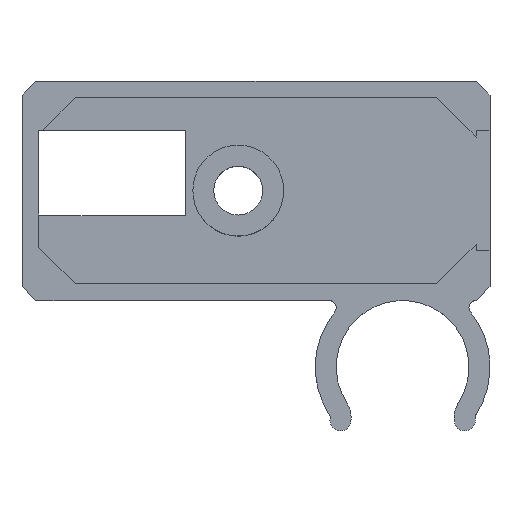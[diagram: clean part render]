
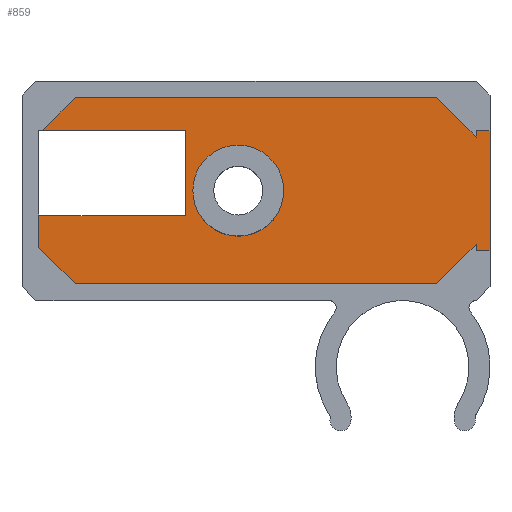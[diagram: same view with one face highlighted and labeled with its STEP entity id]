
A CAD part, top view. The second image highlights one B-rep face of the part: STEP entity #859.
In plain terms, the highlighted planar face has unit normal (0, 0, 1).
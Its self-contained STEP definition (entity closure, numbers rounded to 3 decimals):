
#611=CARTESIAN_POINT('',(-5.04,-17.5,1.0));
#612=VERTEX_POINT('',#611);
#619=CARTESIAN_POINT('',(-5.04,-11.36,1.0));
#620=VERTEX_POINT('',#619);
#621=CARTESIAN_POINT('',(-5.04,-17.5,1.0));
#622=DIRECTION('',(0.0,1.0,0.0));
#623=VECTOR('',#622,6.14);
#624=LINE('',#621,#623);
#625=EDGE_CURVE('',#612,#620,#624,.T.);
#650=CARTESIAN_POINT('',(-15.25,-11.36,1.0));
#651=VERTEX_POINT('',#650);
#652=CARTESIAN_POINT('',(-5.04,-11.36,1.0));
#653=DIRECTION('',(-1.0,0.0,0.0));
#654=VECTOR('',#653,10.21);
#655=LINE('',#652,#654);
#656=EDGE_CURVE('',#620,#651,#655,.T.);
#704=CARTESIAN_POINT('',(-15.54,-17.5,1.0));
#705=VERTEX_POINT('',#704);
#712=CARTESIAN_POINT('',(-15.54,-17.5,1.0));
#713=DIRECTION('',(1.0,0.0,0.0));
#714=VECTOR('',#713,10.5);
#715=LINE('',#712,#714);
#716=EDGE_CURVE('',#705,#612,#715,.T.);
#744=CARTESIAN_POINT('',(0.0,-15.7,1.0));
#745=DIRECTION('',(0.0,0.0,-1.0));
#746=DIRECTION('',(1.0,0.0,0.0));
#747=AXIS2_PLACEMENT_3D('',#744,#745,#746);
#748=PLANE('',#747);
#749=ORIENTED_EDGE('',*,*,#716,.F.);
#750=CARTESIAN_POINT('',(-15.54,-19.75,1.0));
#751=VERTEX_POINT('',#750);
#752=CARTESIAN_POINT('',(-15.54,-19.75,1.0));
#753=DIRECTION('',(0.0,1.0,0.0));
#754=VECTOR('',#753,2.25);
#755=LINE('',#752,#754);
#756=EDGE_CURVE('',#751,#705,#755,.T.);
#757=ORIENTED_EDGE('',*,*,#756,.F.);
#758=CARTESIAN_POINT('',(-12.94,-22.35,1.0));
#759=VERTEX_POINT('',#758);
#760=CARTESIAN_POINT('',(-12.94,-22.35,1.0));
#761=DIRECTION('',(-0.707,0.707,0.0));
#762=VECTOR('',#761,3.677);
#763=LINE('',#760,#762);
#764=EDGE_CURVE('',#759,#751,#763,.T.);
#765=ORIENTED_EDGE('',*,*,#764,.F.);
#766=CARTESIAN_POINT('',(12.94,-22.35,1.0));
#767=VERTEX_POINT('',#766);
#768=CARTESIAN_POINT('',(12.94,-22.35,1.0));
#769=DIRECTION('',(-1.0,0.0,0.0));
#770=VECTOR('',#769,25.88);
#771=LINE('',#768,#770);
#772=EDGE_CURVE('',#767,#759,#771,.T.);
#773=ORIENTED_EDGE('',*,*,#772,.F.);
#774=CARTESIAN_POINT('',(15.74,-19.55,1.0));
#775=VERTEX_POINT('',#774);
#776=CARTESIAN_POINT('',(15.74,-19.55,1.0));
#777=DIRECTION('',(-0.707,-0.707,0.0));
#778=VECTOR('',#777,3.96);
#779=LINE('',#776,#778);
#780=EDGE_CURVE('',#775,#767,#779,.T.);
#781=ORIENTED_EDGE('',*,*,#780,.F.);
#782=CARTESIAN_POINT('',(15.74,-20.,1.0));
#783=VERTEX_POINT('',#782);
#784=CARTESIAN_POINT('',(15.74,-20.0,1.0));
#785=DIRECTION('',(0.0,1.0,0.0));
#786=VECTOR('',#785,0.45);
#787=LINE('',#784,#786);
#788=EDGE_CURVE('',#783,#775,#787,.T.);
#789=ORIENTED_EDGE('',*,*,#788,.F.);
#790=CARTESIAN_POINT('',(16.74,-20.,1.0));
#791=VERTEX_POINT('',#790);
#792=CARTESIAN_POINT('',(16.74,-20.,1.0));
#793=DIRECTION('',(-1.0,0.0,0.0));
#794=VECTOR('',#793,1.0);
#795=LINE('',#792,#794);
#796=EDGE_CURVE('',#791,#783,#795,.T.);
#797=ORIENTED_EDGE('',*,*,#796,.F.);
#798=CARTESIAN_POINT('',(16.74,-11.4,1.0));
#799=VERTEX_POINT('',#798);
#800=CARTESIAN_POINT('',(16.74,-11.4,1.0));
#801=DIRECTION('',(0.0,-1.0,0.0));
#802=VECTOR('',#801,8.6);
#803=LINE('',#800,#802);
#804=EDGE_CURVE('',#799,#791,#803,.T.);
#805=ORIENTED_EDGE('',*,*,#804,.F.);
#806=CARTESIAN_POINT('',(15.74,-11.4,1.0));
#807=VERTEX_POINT('',#806);
#808=CARTESIAN_POINT('',(15.74,-11.4,1.0));
#809=DIRECTION('',(1.0,0.0,0.0));
#810=VECTOR('',#809,1.0);
#811=LINE('',#808,#810);
#812=EDGE_CURVE('',#807,#799,#811,.T.);
#813=ORIENTED_EDGE('',*,*,#812,.F.);
#814=CARTESIAN_POINT('',(15.74,-11.85,1.0));
#815=VERTEX_POINT('',#814);
#816=CARTESIAN_POINT('',(15.74,-11.85,1.0));
#817=DIRECTION('',(0.0,1.0,0.0));
#818=VECTOR('',#817,0.45);
#819=LINE('',#816,#818);
#820=EDGE_CURVE('',#815,#807,#819,.T.);
#821=ORIENTED_EDGE('',*,*,#820,.F.);
#822=CARTESIAN_POINT('',(12.94,-9.05,1.0));
#823=VERTEX_POINT('',#822);
#824=CARTESIAN_POINT('',(12.94,-9.05,1.0));
#825=DIRECTION('',(0.707,-0.707,0.0));
#826=VECTOR('',#825,3.96);
#827=LINE('',#824,#826);
#828=EDGE_CURVE('',#823,#815,#827,.T.);
#829=ORIENTED_EDGE('',*,*,#828,.F.);
#830=CARTESIAN_POINT('',(-12.94,-9.05,1.0));
#831=VERTEX_POINT('',#830);
#832=CARTESIAN_POINT('',(-12.94,-9.05,1.0));
#833=DIRECTION('',(1.0,0.0,0.0));
#834=VECTOR('',#833,25.88);
#835=LINE('',#832,#834);
#836=EDGE_CURVE('',#831,#823,#835,.T.);
#837=ORIENTED_EDGE('',*,*,#836,.F.);
#838=CARTESIAN_POINT('',(-15.25,-11.36,1.0));
#839=DIRECTION('',(0.707,0.707,0.0));
#840=VECTOR('',#839,3.267);
#841=LINE('',#838,#840);
#842=EDGE_CURVE('',#651,#831,#841,.T.);
#843=ORIENTED_EDGE('',*,*,#842,.F.);
#844=ORIENTED_EDGE('',*,*,#656,.F.);
#845=ORIENTED_EDGE('',*,*,#625,.F.);
#846=EDGE_LOOP('',(#749,#757,#765,#773,#781,#789,#797,#805,#813,#821,#829,#837,#843,#844,#845));
#847=FACE_OUTER_BOUND('',#846,.T.);
#848=CARTESIAN_POINT('',(1.98,-15.7,1.0));
#849=VERTEX_POINT('',#848);
#850=CARTESIAN_POINT('',(-1.27,-15.7,1.0));
#851=DIRECTION('',(0.0,0.0,1.0));
#852=DIRECTION('',(-1.0,0.0,0.0));
#853=AXIS2_PLACEMENT_3D('',#850,#851,#852);
#854=CIRCLE('',#853,3.25);
#855=EDGE_CURVE('',#849,#849,#854,.T.);
#856=ORIENTED_EDGE('',*,*,#855,.F.);
#857=EDGE_LOOP('',(#856));
#858=FACE_BOUND('',#857,.T.);
#859=ADVANCED_FACE('',(#847,#858),#748,.F.);
